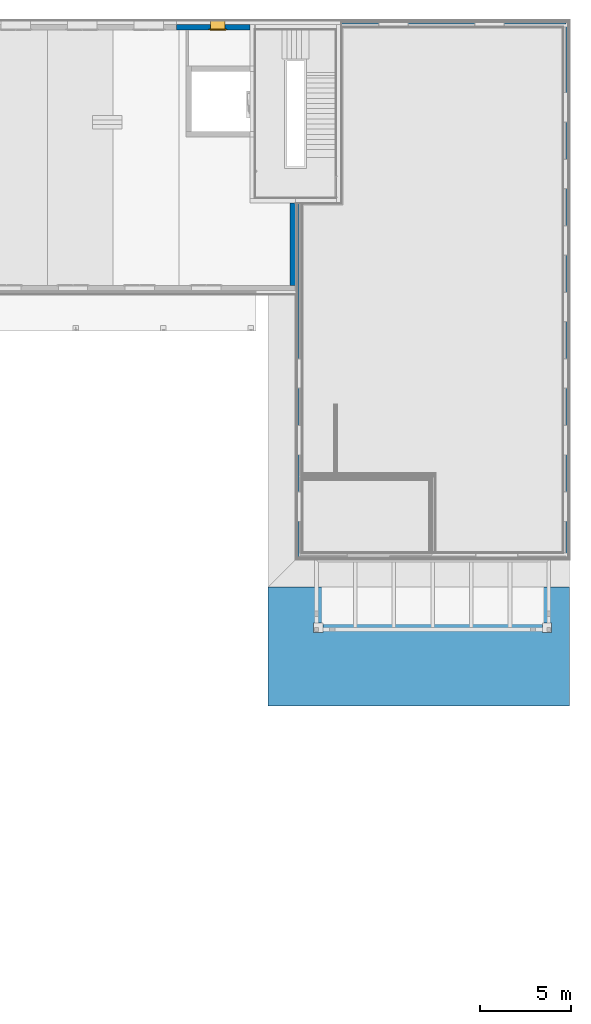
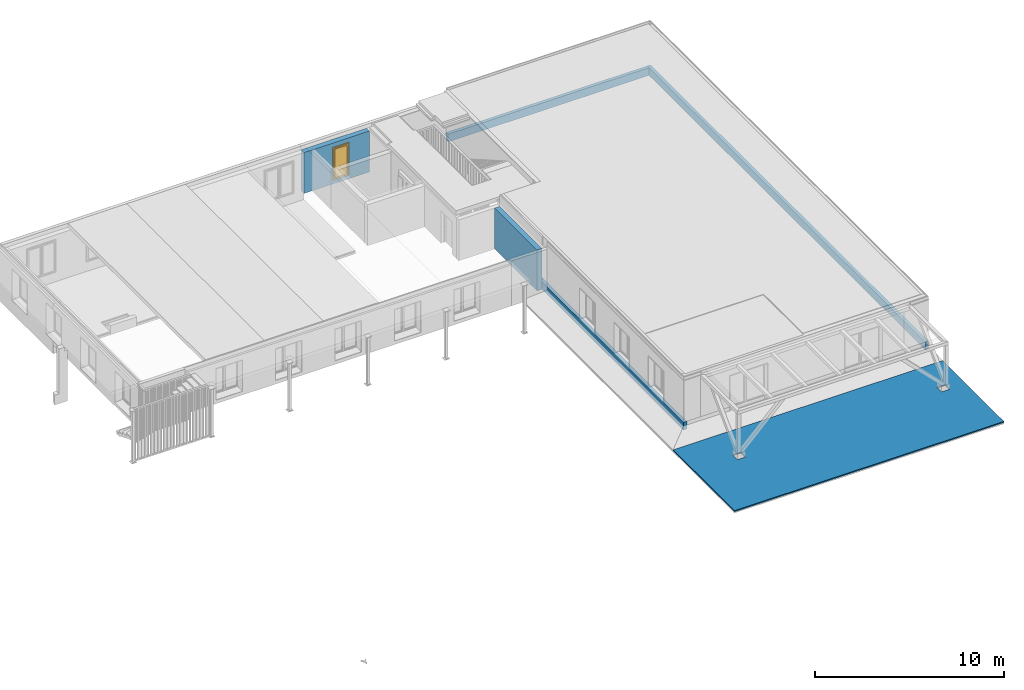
# One storey, part 8 of 20: 5 walls, 1 building element part, 1 window, 1 opening, 1 element without a shape of its own.
"""IFC4 building model written with IfcOpenShell, lengths in millimetres."""

from ifc_helpers import new_model, entity, si_unit, converted_unit, derived_unit, direction, frame, origin_with_axes, place, context, subcontext, project, spatial, polygons, material, constituent, constituent_set, type_object, element, fill, aggregate, save


model = new_model("IFC4")

# Units and contexts
model_context = context("Model", 3, precision=0.01, world=origin_with_axes(), true_north=direction((0.0, 1.0)))
body_context = subcontext(model_context, "Body", "Model", "MODEL_VIEW")
ifc_project = project(units=[si_unit("LENGTHUNIT", "METRE", prefix="MILLI"), si_unit("AREAUNIT", "SQUARE_METRE"), si_unit("VOLUMEUNIT", "CUBIC_METRE"), converted_unit("PLANEANGLEUNIT", "DEGREE", entity("IfcPlaneAngleMeasure", 0.0174532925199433), si_unit("PLANEANGLEUNIT", "RADIAN"), dimensions=[0, 0, 0, 0, 0, 0, 0]), converted_unit("TIMEUNIT", "Year", entity("IfcTimeMeasure", 31557600.0), si_unit("TIMEUNIT", "SECOND"), dimensions=[0, 0, 1, 0, 0, 0, 0]), si_unit("MASSUNIT", "GRAM", prefix="KILO"), si_unit("THERMODYNAMICTEMPERATUREUNIT", "DEGREE_CELSIUS"), si_unit("LUMINOUSINTENSITYUNIT", "LUMEN"), si_unit("ENERGYUNIT", "JOULE", prefix="MEGA"), derived_unit("THERMALCONDUCTANCEUNIT", [(si_unit("POWERUNIT", "WATT"), 1), (si_unit("LENGTHUNIT", "METRE"), -1), (si_unit("THERMODYNAMICTEMPERATUREUNIT", "KELVIN"), -1)]), derived_unit("SPECIFICHEATCAPACITYUNIT", [(si_unit("ENERGYUNIT", "JOULE"), 1), (si_unit("MASSUNIT", "GRAM", prefix="KILO"), -1), (si_unit("THERMODYNAMICTEMPERATUREUNIT", "KELVIN"), -1)]), derived_unit("MASSDENSITYUNIT", [(si_unit("MASSUNIT", "GRAM", prefix="KILO"), 1), (si_unit("VOLUMEUNIT", "CUBIC_METRE"), -1)])], contexts=[model_context])

# Site, building, storey
site_placement = place(None, origin_with_axes())
site = spatial("IfcSite", under=ifc_project, at=site_placement, Name="Gelände", CompositionType="ELEMENT")
building_placement = place(site_placement, origin_with_axes())
building = spatial("IfcBuilding", under=site, at=building_placement, Name="Gebäude", CompositionType="ELEMENT")
storey_placement = place(building_placement, frame((0.0, 0.0, 5.198845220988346e-05), z_axis=(0.0, 0.0, 1.0), x_axis=(1.0, 0.0, 0.0)))
storey = spatial("IfcBuildingStorey", under=building, at=storey_placement, Name="EG", CompositionType="ELEMENT", Elevation=0.0)

# Wall
ifc_material_1 = material(Name="Beton bewehrt")
ifc_constituent_1 = constituent(ifc_material_1, Name="Beton bewehrt")
ifc_constituent_set_1 = constituent_set(constituents=[ifc_constituent_1], Name="Innenwand Typ 08")
wall_type_1 = type_object("IfcWallType", Name="Innenwand Typ 08 300", PredefinedType="NOTDEFINED")
wall_1_placement = place(storey_placement, frame((17928.99744477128, 28247.59728131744, 0.0), z_axis=(0.0, 0.0, 1.0), x_axis=(0.0, -1.0, 0.0)))
element("IfcWall", 1, at=wall_1_placement, inside=storey, type_object=wall_type_1, material=ifc_constituent_set_1, Name="Wand-014", PredefinedType="NOTDEFINED", context=body_context, shape_type="Tessellation", body=[
    polygons([(4790.000540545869, 0.0, 0.0), (300.0000000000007, 0.0, 0.0), (300.0000000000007, 0.0, 2649.999948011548), (4790.000540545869, 0.0, 2649.999948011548), (4790.000540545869, 0.0, 500.0), (4790.000540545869, -299.9999999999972, 0.0), (300.0000000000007, -300.0000000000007, 0.0), (300.0000000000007, -300.0000000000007, 2649.999948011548), (4790.000540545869, -300.0000000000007, 2649.999948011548)], [[[1, 2, 3, 4, 5]], [[6, 7, 2, 1]], [[7, 8, 3, 2]], [[4, 3, 8, 9]], [[4, 9, 6, 1, 5]], [[9, 8, 7, 6]]], closed=True),
])

# Wall, opening, window
ifc_constituent_2 = constituent(ifc_material_1, Name="Beton bewehrt")
ifc_constituent_set_2 = constituent_set(constituents=[ifc_constituent_2], Name="Aussenwand Typ 05")
wall_type_2 = type_object("IfcWallType", Name="Aussenwand Typ 05 300", PredefinedType="NOTDEFINED")
wall_2_placement = place(storey_placement, frame((11428.998626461, 37737.5972813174, 0.0), z_axis=(0.0, 0.0, 1.0), x_axis=(1.0, 0.0, 0.0)))
wall_2 = element("IfcWall", 2, at=wall_2_placement, inside=storey, type_object=wall_type_2, material=ifc_constituent_set_2, Name="Wand-014", PredefinedType="NOTDEFINED", context=body_context, shape_type="Tessellation", body=[
    polygons([(2651.998818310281, -250.0, 249.9999481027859), (2651.998818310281, -250.0, 2271.999948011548), (2651.998818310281, 0.0, 2271.999948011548), (2651.998818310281, 0.0, 249.9999481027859), (1847.998818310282, -250.0, 2271.999948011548), (2751.998818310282, -250.0, 249.9999481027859), (2751.998818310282, -250.0, 2371.999948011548), (1747.998818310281, -250.0, 2371.999948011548), (1747.998818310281, -250.0, 249.9999481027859), (1847.998818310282, -250.0, 249.9999481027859), (1847.998818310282, 0.0, 2271.999948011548), (3999.998818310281, 0.0, 0.0), (0.0, 0.0, 0.0), (0.0, 0.0, 2649.999948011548), (3999.998818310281, 0.0, 2649.999948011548), (1847.998818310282, 0.0, 249.9999481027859), (1747.998818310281, -299.9999999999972, 249.9999481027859), (2751.998818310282, -299.9999999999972, 249.9999481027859), (2751.998818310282, -299.9999999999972, 2371.999948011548), (1747.998818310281, -299.9999999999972, 2371.999948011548), (3999.998818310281, -299.9999999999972, 0.0), (0.0, -299.9999999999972, 0.0), (0.0, -299.9999999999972, 2649.999948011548), (3999.998818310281, -299.9999999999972, 2649.999948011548)], [[[1, 2, 3, 4]], [[5, 2, 1, 6, 7, 8, 9, 10]], [[2, 5, 11, 3]], [[12, 13, 14, 15], [4, 3, 11, 16]], [[10, 9, 17, 18, 6, 1, 4, 16]], [[18, 19, 7, 6]], [[19, 20, 8, 7]], [[20, 17, 9, 8]], [[5, 10, 16, 11]], [[21, 22, 13, 12]], [[14, 13, 22, 23]], [[15, 14, 23, 24]], [[21, 12, 15, 24]], [[24, 23, 22, 21], [17, 20, 19, 18]]], closed=True),
])
opening_placement = place(wall_2_placement, frame((2249.998818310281, 0.0, 309.999948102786), z_axis=(0.0, 0.0, 1.0), x_axis=(1.0, 0.0, 0.0)))
opening = element("IfcOpeningElement", 3, at=opening_placement, cuts=wall_2, Name="Fenster-004", context=body_context, identifier="Reference", shape_type="Tessellation", body=[
    polygons([(400.0000000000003, 0.9999999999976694, 1959.999999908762), (400.0000000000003, 0.9999999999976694, 1961.999999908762), (401.9999999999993, 0.9999999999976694, 1961.999999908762), (401.9999999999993, 0.9999999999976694, -60.00000000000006), (-401.9999999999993, 0.9999999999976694, -60.00000000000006), (-401.9999999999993, 0.9999999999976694, 1961.999999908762), (-400.0000000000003, 0.9999999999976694, 1961.999999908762), (-400.0000000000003, 0.9999999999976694, 1959.999999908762), (400.0000000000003, 0.0, 1961.999999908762), (400.0000000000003, 149.9999999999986, 1959.999999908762), (400.0000000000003, 149.9999999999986, 2249.999999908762), (400.0000000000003, 0.0, 2249.999999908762), (-400.0000000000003, 0.0, 1961.999999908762), (-401.9999999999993, -250.0, 1961.999999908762), (401.9999999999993, -250.0, 1961.999999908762), (401.9999999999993, -250.0, -60.00000000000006), (-401.9999999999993, -250.0, -60.00000000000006), (502.0000000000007, -250.0, -60.00000000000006), (502.0000000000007, -300.9999999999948, -60.00000000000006), (-502.0000000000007, -300.9999999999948, -60.00000000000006), (-502.0000000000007, -250.0, -60.00000000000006), (-400.0000000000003, 0.0, 2249.999999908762), (-400.0000000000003, 149.9999999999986, 2249.999999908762), (-400.0000000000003, 149.9999999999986, 1959.999999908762), (-502.0000000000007, -250.0, 2061.999999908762), (502.0000000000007, -250.0, 2061.999999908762), (502.0000000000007, -300.9999999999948, 2061.999999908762), (-502.0000000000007, -300.9999999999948, 2061.999999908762)], [[[1, 2, 3, 4, 5, 6, 7, 8]], [[9, 2, 1, 10, 11, 12]], [[13, 7, 6, 14, 15, 3, 2, 9]], [[15, 16, 4, 3]], [[17, 5, 4, 16, 18, 19, 20, 21]], [[17, 14, 6, 5]], [[8, 7, 13, 22, 23, 24]], [[1, 8, 24, 10]], [[24, 23, 11, 10]], [[23, 22, 12, 11]], [[13, 9, 12, 22]], [[16, 15, 14, 17, 21, 25, 26, 18]], [[18, 26, 27, 19]], [[28, 20, 19, 27]], [[25, 21, 20, 28]], [[26, 25, 28, 27]]], closed=True),
])
window_type = type_object("IfcWindowType", Name="1-Flügelfenster 27", PartitioningType="SINGLE_PANEL", PredefinedType="NOTDEFINED")
window_placement = place(opening_placement, frame((400.0000000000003, 0.0, 0.0), z_axis=(0.0, 0.0, 1.0), x_axis=(-1.0, 0.0, 0.0)))
window = element("IfcWindow", 4, at=window_placement, inside=storey, type_object=window_type, Name="Fenster-004", OverallHeight=2122.0, OverallWidth=1004.0, PredefinedType="NOTDEFINED", context=body_context, shape_type="Tessellation", body=[
    polygons([(-1.999999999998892, 249.0000000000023, 0.0), (-1.999999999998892, 249.0000000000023, -10.00000000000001), (801.9999999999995, 249.0000000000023, -9.999999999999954), (801.9999999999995, 249.0000000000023, 0.0), (-1.999999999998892, -229.9999999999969, -48.40000000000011), (801.9999999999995, -229.9999999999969, -48.40000000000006), (-1.999999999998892, -229.9999999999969, -68.40000000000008), (801.9999999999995, -229.9999999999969, -68.40000000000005), (-1.999999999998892, -219.9999999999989, -58.40000000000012), (801.9999999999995, -219.9999999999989, -58.40000000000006)], [[[1, 2, 3, 4]], [[2, 5, 6, 3]], [[5, 7, 8, 6]], [[7, 9, 10, 8]]], closed=False),
    polygons([(0.0, 0.0, 1959.999999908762), (5.000000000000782, 0.0, 1959.999999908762), (5.000000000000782, -5.000000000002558, 1959.999999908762), (0.0, -5.000000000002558, 1959.999999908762), (0.0, 0.0, 2249.999999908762), (5.000000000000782, 0.0, 2249.999999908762), (5.000000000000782, -149.9999999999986, 2249.999999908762), (5.000000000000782, -149.9999999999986, 1959.999999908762), (5.000000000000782, -145.0000000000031, 1959.999999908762), (0.0, -145.0000000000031, 1959.999999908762), (0.0, -149.9999999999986, 1959.999999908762), (0.0, -149.9999999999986, 2249.999999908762)], [[[1, 2, 3, 4]], [[5, 6, 2, 1]], [[2, 6, 7, 8, 9, 3]], [[4, 3, 9, 10]], [[1, 4, 10, 11, 12, 5]], [[12, 7, 6, 5]], [[11, 8, 7, 12]], [[10, 9, 8, 11]]], closed=True),
    polygons([(794.9999999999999, 0.0, 1959.999999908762), (800.0000000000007, 0.0, 1959.999999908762), (800.0000000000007, -5.000000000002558, 1959.999999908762), (794.9999999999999, -5.000000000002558, 1959.999999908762), (794.9999999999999, 0.0, 2249.999999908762), (800.0000000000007, 0.0, 2249.999999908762), (800.0000000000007, -149.9999999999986, 2249.999999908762), (800.0000000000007, -149.9999999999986, 1959.999999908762), (800.0000000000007, -145.0000000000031, 1959.999999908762), (794.9999999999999, -145.0000000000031, 1959.999999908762), (794.9999999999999, -149.9999999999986, 1959.999999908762), (794.9999999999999, -149.9999999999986, 2249.999999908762)], [[[1, 2, 3, 4]], [[5, 6, 2, 1]], [[2, 6, 7, 8, 9, 3]], [[4, 3, 9, 10]], [[1, 4, 10, 11, 12, 5]], [[12, 7, 6, 5]], [[11, 8, 7, 12]], [[10, 9, 8, 11]]], closed=True),
    polygons([(5.000000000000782, 0.0, 1959.999999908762), (794.9999999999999, 0.0, 1959.999999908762), (794.9999999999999, -5.000000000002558, 1959.999999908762), (5.000000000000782, -5.000000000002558, 1959.999999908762), (5.000000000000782, 0.0, 2249.999999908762), (794.9999999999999, 0.0, 2249.999999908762), (794.9999999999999, -149.9999999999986, 2249.999999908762), (794.9999999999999, -149.9999999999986, 1959.999999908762), (794.9999999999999, -145.0000000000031, 1959.999999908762), (794.9999999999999, -145.0000000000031, 2244.999999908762), (794.9999999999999, -5.000000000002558, 2244.999999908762), (5.000000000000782, -5.000000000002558, 2244.999999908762), (5.000000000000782, -145.0000000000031, 2244.999999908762), (5.000000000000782, -145.0000000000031, 1959.999999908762), (5.000000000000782, -149.9999999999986, 1959.999999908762), (5.000000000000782, -149.9999999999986, 2249.999999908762)], [[[1, 2, 3, 4]], [[5, 6, 2, 1]], [[2, 6, 7, 8, 9, 10, 11, 3]], [[4, 3, 11, 12]], [[1, 4, 12, 13, 14, 15, 16, 5]], [[16, 7, 6, 5]], [[15, 8, 7, 16]], [[14, 9, 8, 15]], [[13, 10, 9, 14]], [[12, 11, 10, 13]]], closed=True),
    polygons([(794.9999999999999, -52.72613639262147, 2142.763654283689), (5.000000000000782, -52.72613639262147, 2142.763654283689), (5.000000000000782, -54.84745673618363, 2144.884974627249), (794.9999999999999, -54.84745673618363, 2144.884974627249), (794.9999999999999, -68.98959235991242, 2130.742839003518), (5.000000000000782, -68.98959235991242, 2130.742839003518), (5.000000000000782, -83.13172798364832, 2116.600703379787), (5.000000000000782, -95.15254326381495, 2100.337247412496), (5.000000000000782, -97.27386360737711, 2102.458567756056), (5.000000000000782, -85.25304832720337, 2118.722023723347), (5.000000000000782, -71.11091270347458, 2132.864159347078), (794.9999999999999, -71.11091270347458, 2132.864159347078), (794.9999999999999, -85.25304832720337, 2118.722023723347), (794.9999999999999, -97.27386360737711, 2102.458567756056), (794.9999999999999, -95.15254326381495, 2100.337247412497), (794.9999999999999, -83.13172798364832, 2116.600703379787)], [[[1, 2, 3, 4]], [[5, 6, 2, 1]], [[2, 6, 7, 8, 9, 10, 11, 3]], [[4, 3, 11, 12]], [[1, 4, 12, 13, 14, 15, 16, 5]], [[16, 7, 6, 5]], [[15, 8, 7, 16]], [[14, 9, 8, 15]], [[13, 10, 9, 14]], [[12, 11, 10, 13]]], closed=True),
    polygons([(794.9999999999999, -52.72613639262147, 2081.319209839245), (5.000000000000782, -52.72613639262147, 2081.319209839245), (5.000000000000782, -54.84745673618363, 2083.440530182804), (794.9999999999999, -54.84745673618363, 2083.440530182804), (794.9999999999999, -68.98959235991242, 2069.298394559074), (5.000000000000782, -68.98959235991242, 2069.298394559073), (5.000000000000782, -83.13172798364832, 2055.156258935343), (5.000000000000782, -95.15254326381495, 2038.892802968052), (5.000000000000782, -97.27386360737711, 2041.014123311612), (5.000000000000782, -85.25304832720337, 2057.277579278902), (5.000000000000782, -71.11091270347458, 2071.419714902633), (794.9999999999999, -71.11091270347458, 2071.419714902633), (794.9999999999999, -85.25304832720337, 2057.277579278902), (794.9999999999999, -97.27386360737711, 2041.014123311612), (794.9999999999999, -95.15254326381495, 2038.892802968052), (794.9999999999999, -83.13172798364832, 2055.156258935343)], [[[1, 2, 3, 4]], [[5, 6, 2, 1]], [[2, 6, 7, 8, 9, 10, 11, 3]], [[4, 3, 11, 12]], [[1, 4, 12, 13, 14, 15, 16, 5]], [[16, 7, 6, 5]], [[15, 8, 7, 16]], [[14, 9, 8, 15]], [[13, 10, 9, 14]], [[12, 11, 10, 13]]], closed=True),
    polygons([(794.9999999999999, -52.72613639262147, 2019.874765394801), (5.000000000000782, -52.72613639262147, 2019.874765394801), (5.000000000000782, -54.84745673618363, 2021.99608573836), (794.9999999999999, -54.84745673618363, 2021.99608573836), (794.9999999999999, -68.98959235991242, 2007.853950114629), (5.000000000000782, -68.98959235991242, 2007.853950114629), (5.000000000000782, -83.13172798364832, 1993.711814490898), (5.000000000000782, -95.15254326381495, 1977.448358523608), (5.000000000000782, -97.27386360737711, 1979.569678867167), (5.000000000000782, -85.25304832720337, 1995.833134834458), (5.000000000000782, -71.11091270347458, 2009.975270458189), (794.9999999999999, -71.11091270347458, 2009.975270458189), (794.9999999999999, -85.25304832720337, 1995.833134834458), (794.9999999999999, -97.27386360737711, 1979.569678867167), (794.9999999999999, -95.15254326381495, 1977.448358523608), (794.9999999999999, -83.13172798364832, 1993.711814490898)], [[[1, 2, 3, 4]], [[5, 6, 2, 1]], [[2, 6, 7, 8, 9, 10, 11, 3]], [[4, 3, 11, 12]], [[1, 4, 12, 13, 14, 15, 16, 5]], [[16, 7, 6, 5]], [[15, 8, 7, 16]], [[14, 9, 8, 15]], [[13, 10, 9, 14]], [[12, 11, 10, 13]]], closed=True),
    polygons([(794.9999999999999, -46.50000000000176, 1964.499999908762), (5.000000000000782, -46.50000000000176, 1964.499999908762), (5.000000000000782, -103.4999999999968, 1964.499999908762), (794.9999999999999, -103.4999999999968, 1964.499999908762), (794.9999999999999, -46.50000000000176, 1961.499999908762), (5.000000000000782, -46.50000000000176, 1961.499999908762), (5.000000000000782, -45.00000000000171, 1961.499999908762), (5.000000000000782, -45.00000000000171, 1959.999999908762), (5.000000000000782, -104.9999999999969, 1959.999999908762), (5.000000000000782, -104.9999999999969, 1961.499999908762), (5.000000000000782, -103.4999999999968, 1961.499999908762), (794.9999999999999, -103.4999999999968, 1961.499999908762), (794.9999999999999, -104.9999999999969, 1961.499999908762), (794.9999999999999, -104.9999999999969, 1959.999999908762), (794.9999999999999, -45.00000000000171, 1959.999999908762), (794.9999999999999, -45.00000000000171, 1961.499999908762)], [[[1, 2, 3, 4]], [[5, 6, 2, 1]], [[2, 6, 7, 8, 9, 10, 11, 3]], [[4, 3, 11, 12]], [[1, 4, 12, 13, 14, 15, 16, 5]], [[16, 7, 6, 5]], [[15, 8, 7, 16]], [[14, 9, 8, 15]], [[13, 10, 9, 14]], [[12, 11, 10, 13]]], closed=True),
    polygons([(0.0, 0.0, -29.96158663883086), (0.0, 249.0000000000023, -10.00000000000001), (0.0, 249.0000000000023, 0.0), (0.0, 250.0, 0.0), (0.0, 250.0, 1959.999999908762), (0.0, 0.0, 1959.999999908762), (-1.999999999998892, 0.0, -29.96158663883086), (-1.999999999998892, 249.0000000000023, -10.00000000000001), (-1.999999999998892, 249.0000000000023, 0.0), (-1.999999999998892, 250.0, 0.0), (-1.999999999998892, 250.0, 1961.999999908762), (-1.999999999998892, 0.0, 1961.999999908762)], [[[1, 2, 3, 4, 5, 6]], [[2, 1, 7, 8]], [[3, 2, 8, 9]], [[4, 3, 9, 10]], [[4, 10, 11, 5]], [[11, 12, 6, 5]], [[7, 1, 6, 12]], [[8, 7, 12, 11, 10, 9]]], closed=True),
    polygons([(801.9999999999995, 0.0, -29.96158663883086), (801.9999999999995, 249.0000000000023, -10.00000000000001), (801.9999999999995, 249.0000000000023, 0.0), (801.9999999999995, 250.0, 0.0), (801.9999999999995, 250.0, 1961.999999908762), (801.9999999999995, 0.0, 1961.999999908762), (800.0000000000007, 0.0, -29.96158663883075), (800.0000000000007, 249.0000000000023, -10.00000000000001), (800.0000000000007, 249.0000000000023, 0.0), (800.0000000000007, 250.0, 0.0), (800.0000000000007, 250.0, 1959.999999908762), (800.0000000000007, 0.0, 1959.999999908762)], [[[1, 2, 3, 4, 5, 6]], [[2, 1, 7, 8]], [[3, 2, 8, 9]], [[4, 3, 9, 10]], [[4, 10, 11, 5]], [[11, 12, 6, 5]], [[7, 1, 6, 12]], [[8, 7, 12, 11, 10, 9]]], closed=True),
    polygons([(-1.999999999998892, 250.0, 1961.999999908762), (0.0, 250.0, 1959.999999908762), (0.0, 0.0, 1959.999999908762), (-1.999999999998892, 0.0, 1961.999999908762), (801.9999999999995, 250.0, 1961.999999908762), (800.0000000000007, 250.0, 1959.999999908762), (800.0000000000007, 0.0, 1959.999999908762), (801.9999999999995, 0.0, 1961.999999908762)], [[[1, 2, 3, 4]], [[1, 5, 6, 2]], [[2, 6, 7, 3]], [[4, 3, 7, 8]], [[5, 1, 4, 8]], [[6, 5, 8, 7]]], closed=True),
    polygons([(0.0, -229.9999999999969, -48.40000000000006), (0.0, 0.0, -29.96158663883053), (0.0, 0.0, 1959.999999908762), (0.0, -229.9999999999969, 1959.999999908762), (-1.999999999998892, 0.0, -29.96158663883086), (-1.999999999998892, -229.9999999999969, -48.40000000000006), (-1.999999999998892, 0.0, 1961.999999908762), (-1.999999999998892, -229.9999999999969, 1961.999999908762)], [[[1, 2, 3, 4]], [[5, 2, 1, 6]], [[2, 5, 7, 3]], [[3, 7, 8, 4]], [[6, 1, 4, 8]], [[5, 6, 8, 7]]], closed=True),
    polygons([(801.9999999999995, -229.9999999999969, -48.40000000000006), (801.9999999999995, 0.0, -29.96158663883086), (801.9999999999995, 0.0, 1961.999999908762), (801.9999999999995, -229.9999999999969, 1961.999999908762), (800.0000000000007, 0.0, -29.96158663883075), (800.0000000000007, -229.9999999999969, -48.40000000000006), (800.0000000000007, 0.0, 1959.999999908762), (800.0000000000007, -229.9999999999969, 1959.999999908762)], [[[1, 2, 3, 4]], [[5, 2, 1, 6]], [[2, 5, 7, 3]], [[3, 7, 8, 4]], [[6, 1, 4, 8]], [[5, 6, 8, 7]]], closed=True),
    polygons([(-1.999999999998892, -229.9999999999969, 1961.999999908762), (-1.999999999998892, 0.0, 1961.999999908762), (0.0, 0.0, 1959.999999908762), (0.0, -229.9999999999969, 1959.999999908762), (801.9999999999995, -229.9999999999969, 1961.999999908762), (801.9999999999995, 0.0, 1961.999999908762), (800.0000000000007, 0.0, 1959.999999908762), (800.0000000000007, -229.9999999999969, 1959.999999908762)], [[[1, 2, 3, 4]], [[5, 6, 2, 1]], [[2, 6, 7, 3]], [[4, 3, 7, 8]], [[1, 4, 8, 5]], [[8, 7, 6, 5]]], closed=True),
    polygons([(-102.0000000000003, 250.0, -60.0), (-102.0000000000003, 320.0000000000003, -60.0), (-22.00000000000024, 320.0000000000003, 20.00000000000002), (-22.00000000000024, 250.0, 20.00000000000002), (-102.0000000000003, 250.0, 2061.999999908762), (-102.0000000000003, 320.0000000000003, 2061.999999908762), (-22.00000000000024, 320.0000000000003, 1981.999999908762), (-22.00000000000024, 250.0, 1981.999999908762)], [[[1, 2, 3, 4]], [[5, 6, 2, 1]], [[2, 6, 7, 3]], [[4, 3, 7, 8]], [[1, 4, 8, 5]], [[8, 7, 6, 5]]], closed=True),
    polygons([(902.000000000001, 250.0, -60.0), (902.000000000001, 320.0000000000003, -60.0), (902.000000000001, 320.0000000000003, 2061.999999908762), (902.000000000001, 250.0, 2061.999999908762), (822.0000000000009, 250.0, 20.00000000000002), (822.0000000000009, 320.0000000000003, 20.00000000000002), (822.0000000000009, 320.0000000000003, 1981.999999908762), (822.0000000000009, 250.0, 1981.999999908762)], [[[1, 2, 3, 4]], [[5, 6, 2, 1]], [[2, 6, 7, 3]], [[4, 3, 7, 8]], [[1, 4, 8, 5]], [[8, 7, 6, 5]]], closed=True),
    polygons([(-102.0000000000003, 250.0, -60.0), (-102.0000000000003, 320.0000000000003, -60.0), (902.000000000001, 320.0000000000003, -60.0), (902.000000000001, 250.0, -60.0), (-22.00000000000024, 250.0, 20.00000000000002), (-22.00000000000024, 320.0000000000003, 20.00000000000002), (400.0000000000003, 320.0000000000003, 20.00000000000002), (822.0000000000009, 320.0000000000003, 20.00000000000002), (822.0000000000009, 250.0, 20.00000000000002), (400.0000000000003, 250.0, 20.00000000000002)], [[[1, 2, 3, 4]], [[5, 6, 2, 1]], [[2, 6, 7, 8, 3]], [[4, 3, 8, 9]], [[1, 4, 9, 10, 5]], [[10, 7, 6, 5]], [[9, 8, 7, 10]]], closed=True),
    polygons([(-102.0000000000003, 250.0, 2061.999999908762), (-102.0000000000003, 320.0000000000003, 2061.999999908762), (-22.00000000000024, 320.0000000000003, 1981.999999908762), (-22.00000000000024, 250.0, 1981.999999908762), (902.000000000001, 250.0, 2061.999999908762), (902.000000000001, 320.0000000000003, 2061.999999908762), (822.0000000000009, 320.0000000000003, 1981.999999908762), (400.0000000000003, 320.0000000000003, 1981.999999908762), (400.0000000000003, 250.0, 1981.999999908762), (822.0000000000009, 250.0, 1981.999999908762)], [[[1, 2, 3, 4]], [[5, 6, 2, 1]], [[2, 6, 7, 8, 3]], [[4, 3, 8, 9]], [[1, 4, 9, 10, 5]], [[10, 7, 6, 5]], [[9, 8, 7, 10]]], closed=True),
    polygons([(-41.99999999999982, 320.0000000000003, 0.0), (-41.99999999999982, 350.0000000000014, 0.0), (28.00000000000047, 350.0000000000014, 70.0), (28.00000000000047, 320.0000000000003, 70.0), (-41.99999999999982, 320.0000000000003, 2001.999999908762), (-41.99999999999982, 350.0000000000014, 2001.999999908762), (28.00000000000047, 350.0000000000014, 1931.999999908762), (28.00000000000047, 320.0000000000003, 1931.999999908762)], [[[1, 2, 3, 4]], [[5, 6, 2, 1]], [[2, 6, 7, 3]], [[4, 3, 7, 8]], [[1, 4, 8, 5]], [[8, 7, 6, 5]]], closed=True),
    polygons([(842.0000000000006, 320.0000000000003, 0.0), (772.0000000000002, 320.0000000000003, 70.0), (772.0000000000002, 350.0000000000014, 70.0), (842.0000000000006, 350.0000000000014, 0.0), (842.0000000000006, 320.0000000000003, 2001.999999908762), (772.0000000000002, 320.0000000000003, 1931.999999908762), (772.0000000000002, 350.0000000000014, 1931.999999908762), (842.0000000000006, 350.0000000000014, 2001.999999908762)], [[[1, 2, 3, 4]], [[1, 5, 6, 2]], [[2, 6, 7, 3]], [[4, 3, 7, 8]], [[5, 1, 4, 8]], [[6, 5, 8, 7]]], closed=True),
    polygons([(-41.99999999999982, 320.0000000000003, 0.0), (-41.99999999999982, 350.0000000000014, 0.0), (842.0000000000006, 350.0000000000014, 0.0), (842.0000000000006, 320.0000000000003, 0.0), (28.00000000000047, 320.0000000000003, 70.0), (28.00000000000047, 350.0000000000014, 70.0), (772.0000000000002, 350.0000000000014, 70.0), (772.0000000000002, 320.0000000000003, 70.0)], [[[1, 2, 3, 4]], [[5, 6, 2, 1]], [[2, 6, 7, 3]], [[4, 3, 7, 8]], [[1, 4, 8, 5]], [[8, 7, 6, 5]]], closed=True),
    polygons([(-41.99999999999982, 320.0000000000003, 2001.999999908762), (842.0000000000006, 320.0000000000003, 2001.999999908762), (842.0000000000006, 350.0000000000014, 2001.999999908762), (-41.99999999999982, 350.0000000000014, 2001.999999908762), (28.00000000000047, 320.0000000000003, 1931.999999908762), (772.0000000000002, 320.0000000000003, 1931.999999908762), (772.0000000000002, 350.0000000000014, 1931.999999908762), (28.00000000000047, 350.0000000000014, 1931.999999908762)], [[[1, 2, 3, 4]], [[1, 5, 6, 2]], [[2, 6, 7, 3]], [[4, 3, 7, 8]], [[5, 1, 4, 8]], [[6, 5, 8, 7]]], closed=True),
    polygons([(-22.00000000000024, 289.9999999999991, 20.00000000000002), (-22.00000000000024, 320.0000000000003, 20.00000000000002), (28.00000000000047, 320.0000000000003, 70.0), (28.00000000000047, 289.9999999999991, 70.0), (-22.00000000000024, 289.9999999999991, 1981.999999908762), (-22.00000000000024, 320.0000000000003, 1981.999999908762), (28.00000000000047, 320.0000000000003, 1931.999999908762), (28.00000000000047, 289.9999999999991, 1931.999999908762)], [[[1, 2, 3, 4]], [[5, 6, 2, 1]], [[2, 6, 7, 3]], [[4, 3, 7, 8]], [[1, 4, 8, 5]], [[8, 7, 6, 5]]], closed=True),
    polygons([(822.0000000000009, 289.9999999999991, 20.00000000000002), (772.0000000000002, 289.9999999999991, 70.0), (772.0000000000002, 320.0000000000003, 70.0), (822.0000000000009, 320.0000000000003, 20.00000000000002), (822.0000000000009, 289.9999999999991, 1981.999999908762), (772.0000000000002, 289.9999999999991, 1931.999999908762), (772.0000000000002, 320.0000000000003, 1931.999999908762), (822.0000000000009, 320.0000000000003, 1981.999999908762)], [[[1, 2, 3, 4]], [[1, 5, 6, 2]], [[2, 6, 7, 3]], [[4, 3, 7, 8]], [[5, 1, 4, 8]], [[6, 5, 8, 7]]], closed=True),
    polygons([(-22.00000000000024, 289.9999999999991, 20.00000000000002), (-22.00000000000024, 320.0000000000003, 20.00000000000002), (822.0000000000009, 320.0000000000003, 20.00000000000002), (822.0000000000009, 289.9999999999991, 20.00000000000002), (28.00000000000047, 289.9999999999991, 70.0), (28.00000000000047, 320.0000000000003, 70.0), (772.0000000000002, 320.0000000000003, 70.0), (772.0000000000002, 289.9999999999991, 70.0)], [[[1, 2, 3, 4]], [[5, 6, 2, 1]], [[2, 6, 7, 3]], [[4, 3, 7, 8]], [[1, 4, 8, 5]], [[8, 7, 6, 5]]], closed=True),
    polygons([(-22.00000000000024, 289.9999999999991, 1981.999999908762), (822.0000000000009, 289.9999999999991, 1981.999999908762), (822.0000000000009, 320.0000000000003, 1981.999999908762), (-22.00000000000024, 320.0000000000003, 1981.999999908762), (28.00000000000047, 289.9999999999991, 1931.999999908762), (772.0000000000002, 289.9999999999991, 1931.999999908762), (772.0000000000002, 320.0000000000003, 1931.999999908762), (28.00000000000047, 320.0000000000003, 1931.999999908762)], [[[1, 2, 3, 4]], [[1, 5, 6, 2]], [[2, 6, 7, 3]], [[4, 3, 7, 8]], [[5, 1, 4, 8]], [[6, 5, 8, 7]]], closed=True),
    polygons([(28.00000000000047, 314.9999999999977, 70.0), (28.00000000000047, 325.0000000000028, 70.0), (772.0000000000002, 325.0000000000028, 70.0), (772.0000000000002, 314.9999999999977, 70.0), (28.00000000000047, 314.9999999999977, 1931.999999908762), (28.00000000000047, 325.0000000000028, 1931.999999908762), (772.0000000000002, 325.0000000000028, 1931.999999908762), (772.0000000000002, 314.9999999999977, 1931.999999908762)], [[[1, 2, 3, 4]], [[5, 6, 2, 1]], [[2, 6, 7, 3]], [[4, 3, 7, 8]], [[1, 4, 8, 5]], [[8, 7, 6, 5]]], closed=True),
])
fill(opening, window)

# Walls
ifc_constituent_3 = constituent(ifc_material_1, Name="Beton bewehrt")
ifc_constituent_set_3 = constituent_set(constituents=[ifc_constituent_3], Name="Aussenwand Typ 07 - Brüstung")
wall_type_3 = type_object("IfcWallType", Name="Aussenwand Typ 07 - Brüstung 200", PredefinedType="NOTDEFINED")
wall_3_placement = place(storey_placement, frame((32928.99744477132, 37947.59728131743, 0.0), z_axis=(0.0, 0.0, 1.0), x_axis=(-1.0, 0.0, 0.0)))
element("IfcWall", 5, at=wall_3_placement, inside=storey, type_object=wall_type_3, material=ifc_constituent_set_3, Name="Wand-017", PredefinedType="NOTDEFINED", context=body_context, shape_type="Tessellation", body=[
    polygons([(200.0000000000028, 200.0000000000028, 0.0), (12500.00000000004, 199.9999999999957, 0.0), (12500.00000000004, 0.0, 0.0), (200.0000000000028, 0.0, 0.0), (200.0000000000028, 200.0000000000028, 500.0), (12500.00000000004, 199.9999999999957, 500.0), (12500.00000000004, 0.0, 500.0), (200.0000000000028, 0.0, 500.0)], [[[1, 2, 3, 4]], [[5, 6, 2, 1]], [[3, 2, 6, 7]], [[4, 3, 7, 8]], [[5, 1, 4, 8]], [[8, 7, 6, 5]]], closed=True),
])
ifc_constituent_4 = constituent(ifc_material_1, Name="Beton bewehrt")
ifc_constituent_set_4 = constituent_set(constituents=[ifc_constituent_4], Name="Aussenwand Typ 07 - Brüstung")
wall_4_placement = place(storey_placement, frame((32928.99744477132, 8447.597281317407, 0.0), z_axis=(0.0, 0.0, 1.0), x_axis=(0.0, 1.0, 0.0)))
element("IfcWall", 6, at=wall_4_placement, inside=storey, type_object=wall_type_3, material=ifc_constituent_set_4, Name="Wand-016", PredefinedType="NOTDEFINED", context=body_context, shape_type="Tessellation", body=[
    polygons([(29500.00000000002, 200.0000000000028, 0.0), (29500.00000000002, 0.0, 0.0), (0.0, 0.0, 0.0), (0.0, 200.0000000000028, 0.0), (29500.00000000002, 200.0000000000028, 500.0), (29500.00000000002, 0.0, 500.0), (0.0, 0.0, 500.0), (0.0, 200.0000000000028, 500.0)], [[[1, 2, 3, 4]], [[2, 1, 5, 6]], [[2, 6, 7, 3]], [[8, 4, 3, 7]], [[5, 1, 4, 8]], [[6, 5, 8, 7]]], closed=True),
])
ifc_constituent_5 = constituent(ifc_material_1, Name="Beton bewehrt")
ifc_constituent_set_5 = constituent_set(constituents=[ifc_constituent_5], Name="Aussenwand Typ 07 - Brüstung")
wall_5_placement = place(storey_placement, frame((17928.99744477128, 27947.49728131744, 0.0), z_axis=(0.0, 0.0, 1.0), x_axis=(0.0, -1.0, 0.0)))
element("IfcWall", 7, at=wall_5_placement, inside=storey, type_object=wall_type_3, material=ifc_constituent_set_5, Name="Wand-014", PredefinedType="NOTDEFINED", context=body_context, shape_type="Tessellation", body=[
    polygons([(0.0, 199.9999999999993, 0.0), (19499.90000000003, 199.9999999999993, 0.0), (19499.90000000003, 0.0, 0.0), (0.0, 0.0, 0.0), (0.0, 199.9999999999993, 500.0), (19499.90000000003, 199.9999999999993, 500.0), (19499.90000000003, 0.0, 500.0), (0.0, 0.0, 500.0)], [[[1, 2, 3, 4]], [[5, 6, 2, 1]], [[7, 3, 2, 6]], [[4, 3, 7, 8]], [[8, 5, 1, 4]], [[8, 7, 6, 5]]], closed=True),
])

# Covering, building element part
covering_type = type_object("IfcCoveringType", Name="Flachdach Typ 02 - Dacheindeckung ESH 155", PredefinedType="NOTDEFINED")
covering_placement = place(storey_placement, frame((16428.99744477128, 6947.597252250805, -5.198845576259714e-05), z_axis=(0.0, 0.0, 1.0), x_axis=(1.0, 0.0, 0.0)))
covering = element("IfcCovering", 8, at=covering_placement, inside=storey, type_object=covering_type, Name="Deckennr.-070", PredefinedType="NOTDEFINED")
ifc_material_2 = material(Name="Grünfläche")
building_element_part_placement = place(covering_placement, origin_with_axes())
building_element_part = element("IfcBuildingElementPart", 9, at=building_element_part_placement, material=ifc_material_2, Name="Grünfläche", PredefinedType="NOTDEFINED", context=body_context, shape_type="Tessellation", body=[
    polygons([(0.0, -6499.999970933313, 80.00000000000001), (0.0, 0.0, 80.00000000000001), (16499.99979757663, 0.0, 80.00000000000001), (16499.99979757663, -6499.999970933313, 80.00000000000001), (15003.99997403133, -2478.999970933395, 80.00000000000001), (15503.99997403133, -2478.999970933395, 80.00000000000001), (15503.99997403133, -1978.999970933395, 80.00000000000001), (15003.99997403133, -1978.999970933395, 80.00000000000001), (2496.000025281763, -2478.999970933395, 80.00000000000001), (2996.000025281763, -2478.999970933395, 80.00000000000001), (2996.000025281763, -1978.999970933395, 80.00000000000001), (2496.000025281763, -1978.999970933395, 80.00000000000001), (0.0, -6499.999970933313, 155.0000000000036), (0.0, 0.0, 155.0000000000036), (16499.99979757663, 0.0, 155.0000000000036), (16499.99979757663, -6499.999970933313, 155.0000000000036), (15003.99997403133, -2478.999970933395, 155.0000000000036), (15503.99997403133, -2478.999970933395, 155.0000000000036), (15503.99997403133, -1978.999970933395, 155.0000000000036), (15003.99997403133, -1978.999970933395, 155.0000000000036), (2496.000025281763, -2478.999970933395, 155.0000000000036), (2996.000025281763, -2478.999970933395, 155.0000000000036), (2996.000025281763, -1978.999970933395, 155.0000000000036), (2496.000025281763, -1978.999970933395, 155.0000000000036)], [[[1, 2, 3, 4], [5, 6, 7, 8], [9, 10, 11, 12]], [[2, 1, 13, 14]], [[3, 2, 14, 15]], [[4, 3, 15, 16]], [[1, 4, 16, 13]], [[17, 18, 6, 5]], [[18, 19, 7, 6]], [[19, 20, 8, 7]], [[20, 17, 5, 8]], [[21, 22, 10, 9]], [[22, 23, 11, 10]], [[23, 24, 12, 11]], [[24, 21, 9, 12]], [[15, 14, 13, 16], [17, 20, 19, 18], [21, 24, 23, 22]]], closed=True),
])
aggregate(covering, [building_element_part])

save(model, "model.ifc")
